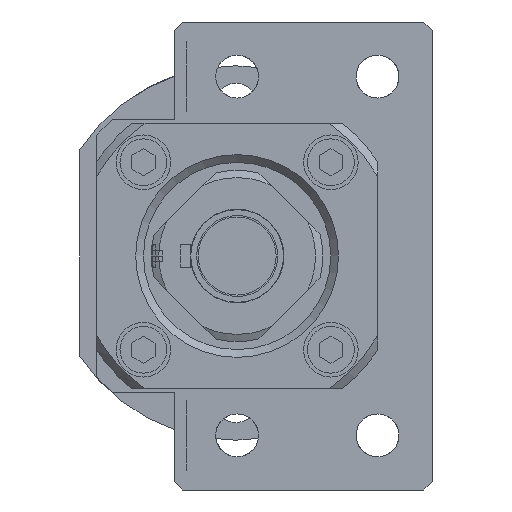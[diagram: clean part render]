
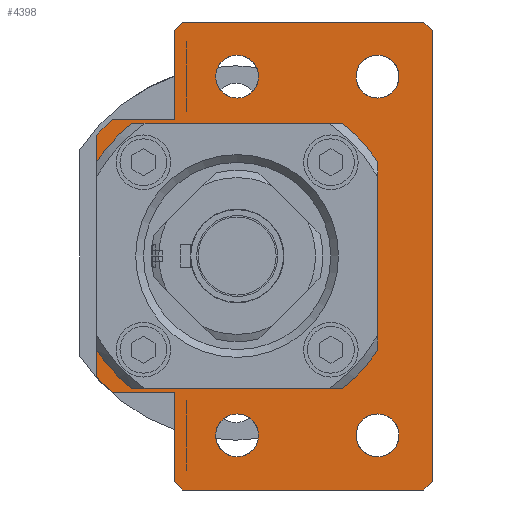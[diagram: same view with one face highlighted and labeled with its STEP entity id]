
A CAD part, left-side view. The second image highlights one B-rep face of the part: STEP entity #4398.
In plain terms, the highlighted planar face has unit normal (-1, 0, 0) as drawn and (0, 0, 1) by its records, which use the part's own axes.
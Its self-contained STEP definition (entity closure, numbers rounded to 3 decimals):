
#251=FACE_BOUND('',#1489,.T.);
#252=FACE_BOUND('',#1490,.T.);
#253=FACE_BOUND('',#1491,.T.);
#254=FACE_BOUND('',#1492,.T.);
#255=FACE_BOUND('',#1493,.T.);
#411=LINE('',#7847,#738);
#415=LINE('',#7854,#742);
#418=LINE('',#7867,#745);
#423=LINE('',#7880,#750);
#427=LINE('',#7890,#754);
#431=LINE('',#7898,#758);
#433=LINE('',#7903,#760);
#488=LINE('',#8234,#815);
#491=LINE('',#8239,#818);
#493=LINE('',#8243,#820);
#495=LINE('',#8246,#822);
#496=LINE('',#8248,#823);
#497=LINE('',#8250,#824);
#498=LINE('',#8251,#825);
#499=LINE('',#8256,#826);
#500=LINE('',#8260,#827);
#501=LINE('',#8264,#828);
#502=LINE('',#8267,#829);
#738=VECTOR('',#5500,10.);
#742=VECTOR('',#5506,10.);
#745=VECTOR('',#5519,10.);
#750=VECTOR('',#5530,10.);
#754=VECTOR('',#5540,1000.);
#758=VECTOR('',#5546,1000.);
#760=VECTOR('',#5550,1000.);
#815=VECTOR('',#5763,1000.);
#818=VECTOR('',#5768,1000.);
#820=VECTOR('',#5772,1000.);
#822=VECTOR('',#5776,1000.);
#823=VECTOR('',#5779,1000.);
#824=VECTOR('',#5782,1000.);
#825=VECTOR('',#5783,1000.);
#826=VECTOR('',#5786,1000.);
#827=VECTOR('',#5789,1000.);
#828=VECTOR('',#5792,1000.);
#829=VECTOR('',#5795,1000.);
#1185=FACE_OUTER_BOUND('',#1488,.T.);
#1488=EDGE_LOOP('',(#3600,#3601,#3602,#3603,#3604,#3605,#3606,#3607,#3608,
#3609,#3610,#3611,#3612,#3613));
#1489=EDGE_LOOP('',(#3614));
#1490=EDGE_LOOP('',(#3615));
#1491=EDGE_LOOP('',(#3616));
#1492=EDGE_LOOP('',(#3617));
#1493=EDGE_LOOP('',(#3618,#3619,#3620,#3621,#3622,#3623,#3624,#3625));
#1698=CIRCLE('',#4756,2.75);
#1700=CIRCLE('',#4761,2.75);
#1702=CIRCLE('',#4766,2.75);
#1704=CIRCLE('',#4771,2.75);
#1764=CIRCLE('',#4879,20.7);
#1765=CIRCLE('',#4880,20.7);
#1766=CIRCLE('',#4881,20.7);
#1767=CIRCLE('',#4882,20.7);
#1943=VERTEX_POINT('',#7103);
#1957=VERTEX_POINT('',#7309);
#1971=VERTEX_POINT('',#7515);
#1985=VERTEX_POINT('',#7721);
#2000=VERTEX_POINT('',#7844);
#2001=VERTEX_POINT('',#7846);
#2003=VERTEX_POINT('',#7852);
#2007=VERTEX_POINT('',#7864);
#2008=VERTEX_POINT('',#7866);
#2013=VERTEX_POINT('',#7879);
#2016=VERTEX_POINT('',#7889);
#2019=VERTEX_POINT('',#7897);
#2020=VERTEX_POINT('',#7901);
#2021=VERTEX_POINT('',#7902);
#2108=VERTEX_POINT('',#8232);
#2109=VERTEX_POINT('',#8233);
#2110=VERTEX_POINT('',#8238);
#2111=VERTEX_POINT('',#8242);
#2112=VERTEX_POINT('',#8252);
#2113=VERTEX_POINT('',#8253);
#2114=VERTEX_POINT('',#8255);
#2115=VERTEX_POINT('',#8257);
#2116=VERTEX_POINT('',#8259);
#2117=VERTEX_POINT('',#8261);
#2118=VERTEX_POINT('',#8263);
#2119=VERTEX_POINT('',#8265);
#2419=EDGE_CURVE('',#1943,#1943,#1698,.T.);
#2436=EDGE_CURVE('',#1957,#1957,#1700,.T.);
#2453=EDGE_CURVE('',#1971,#1971,#1702,.T.);
#2470=EDGE_CURVE('',#1985,#1985,#1704,.T.);
#2490=EDGE_CURVE('',#2001,#2000,#411,.F.);
#2494=EDGE_CURVE('',#2000,#2003,#415,.F.);
#2500=EDGE_CURVE('',#2008,#2007,#418,.F.);
#2507=EDGE_CURVE('',#2013,#2008,#423,.F.);
#2512=EDGE_CURVE('',#2007,#2016,#427,.T.);
#2516=EDGE_CURVE('',#2019,#2001,#431,.T.);
#2518=EDGE_CURVE('',#2020,#2021,#433,.T.);
#2646=EDGE_CURVE('',#2108,#2109,#488,.T.);
#2649=EDGE_CURVE('',#2109,#2110,#491,.T.);
#2651=EDGE_CURVE('',#2110,#2111,#493,.T.);
#2653=EDGE_CURVE('',#2111,#2013,#495,.T.);
#2654=EDGE_CURVE('',#2003,#2108,#496,.T.);
#2655=EDGE_CURVE('',#2020,#2019,#497,.T.);
#2656=EDGE_CURVE('',#2016,#2021,#498,.T.);
#2657=EDGE_CURVE('',#2112,#2113,#1764,.T.);
#2658=EDGE_CURVE('',#2114,#2113,#499,.T.);
#2659=EDGE_CURVE('',#2114,#2115,#1765,.T.);
#2660=EDGE_CURVE('',#2116,#2115,#500,.T.);
#2661=EDGE_CURVE('',#2116,#2117,#1766,.T.);
#2662=EDGE_CURVE('',#2118,#2117,#501,.T.);
#2663=EDGE_CURVE('',#2118,#2119,#1767,.T.);
#2664=EDGE_CURVE('',#2112,#2119,#502,.T.);
#3600=ORIENTED_EDGE('',*,*,#2655,.T.);
#3601=ORIENTED_EDGE('',*,*,#2516,.T.);
#3602=ORIENTED_EDGE('',*,*,#2490,.T.);
#3603=ORIENTED_EDGE('',*,*,#2494,.T.);
#3604=ORIENTED_EDGE('',*,*,#2654,.T.);
#3605=ORIENTED_EDGE('',*,*,#2646,.T.);
#3606=ORIENTED_EDGE('',*,*,#2649,.T.);
#3607=ORIENTED_EDGE('',*,*,#2651,.T.);
#3608=ORIENTED_EDGE('',*,*,#2653,.T.);
#3609=ORIENTED_EDGE('',*,*,#2507,.T.);
#3610=ORIENTED_EDGE('',*,*,#2500,.T.);
#3611=ORIENTED_EDGE('',*,*,#2512,.T.);
#3612=ORIENTED_EDGE('',*,*,#2656,.T.);
#3613=ORIENTED_EDGE('',*,*,#2518,.F.);
#3614=ORIENTED_EDGE('',*,*,#2419,.T.);
#3615=ORIENTED_EDGE('',*,*,#2436,.T.);
#3616=ORIENTED_EDGE('',*,*,#2453,.T.);
#3617=ORIENTED_EDGE('',*,*,#2470,.T.);
#3618=ORIENTED_EDGE('',*,*,#2657,.T.);
#3619=ORIENTED_EDGE('',*,*,#2658,.F.);
#3620=ORIENTED_EDGE('',*,*,#2659,.T.);
#3621=ORIENTED_EDGE('',*,*,#2660,.F.);
#3622=ORIENTED_EDGE('',*,*,#2661,.T.);
#3623=ORIENTED_EDGE('',*,*,#2662,.F.);
#3624=ORIENTED_EDGE('',*,*,#2663,.T.);
#3625=ORIENTED_EDGE('',*,*,#2664,.F.);
#4204=PLANE('',#4878);
#4398=ADVANCED_FACE('',(#1185,#251,#252,#253,#254,#255),#4204,.T.);
#4756=AXIS2_PLACEMENT_3D('',#7104,#5434,#5435);
#4761=AXIS2_PLACEMENT_3D('',#7310,#5447,#5448);
#4766=AXIS2_PLACEMENT_3D('',#7516,#5460,#5461);
#4771=AXIS2_PLACEMENT_3D('',#7722,#5473,#5474);
#4878=AXIS2_PLACEMENT_3D('',#8249,#5780,#5781);
#4879=AXIS2_PLACEMENT_3D('',#8254,#5784,#5785);
#4880=AXIS2_PLACEMENT_3D('',#8258,#5787,#5788);
#4881=AXIS2_PLACEMENT_3D('',#8262,#5790,#5791);
#4882=AXIS2_PLACEMENT_3D('',#8266,#5793,#5794);
#5434=DIRECTION('center_axis',(0.,0.,-1.));
#5435=DIRECTION('ref_axis',(1.,0.,0.));
#5447=DIRECTION('center_axis',(0.,0.,-1.));
#5448=DIRECTION('ref_axis',(1.,0.,0.));
#5460=DIRECTION('center_axis',(0.,0.,-1.));
#5461=DIRECTION('ref_axis',(1.,0.,0.));
#5473=DIRECTION('center_axis',(0.,0.,-1.));
#5474=DIRECTION('ref_axis',(1.,0.,0.));
#5500=DIRECTION('',(1.,0.,0.));
#5506=DIRECTION('',(0.707,0.707,0.));
#5519=DIRECTION('',(1.,0.,0.));
#5530=DIRECTION('',(0.707,-0.707,0.));
#5540=DIRECTION('',(0.,1.,0.));
#5546=DIRECTION('',(0.,-1.,0.));
#5550=DIRECTION('',(1.,0.,0.));
#5763=DIRECTION('',(0.707,-0.707,0.));
#5768=DIRECTION('',(1.,0.,0.));
#5772=DIRECTION('',(0.707,0.707,0.));
#5776=DIRECTION('',(0.,1.,0.));
#5779=DIRECTION('',(0.,-1.,0.));
#5780=DIRECTION('center_axis',(0.,0.,1.));
#5781=DIRECTION('ref_axis',(1.,0.,0.));
#5782=DIRECTION('',(-0.707,-0.707,0.));
#5783=DIRECTION('',(-0.707,0.707,0.));
#5784=DIRECTION('center_axis',(0.,0.,-1.));
#5785=DIRECTION('ref_axis',(-1.,0.,0.));
#5786=DIRECTION('',(-1.,0.,0.));
#5787=DIRECTION('center_axis',(0.,0.,-1.));
#5788=DIRECTION('ref_axis',(-1.,0.,0.));
#5789=DIRECTION('',(0.,1.,0.));
#5790=DIRECTION('center_axis',(0.,0.,-1.));
#5791=DIRECTION('ref_axis',(-1.,0.,0.));
#5792=DIRECTION('',(1.,0.,0.));
#5793=DIRECTION('center_axis',(0.,0.,-1.));
#5794=DIRECTION('ref_axis',(-1.,0.,0.));
#5795=DIRECTION('',(0.,-1.,0.));
#7103=CARTESIAN_POINT('',(-25.75,-18.,0.));
#7104=CARTESIAN_POINT('Origin',(-23.,-18.,0.));
#7309=CARTESIAN_POINT('',(20.25,-18.,0.));
#7310=CARTESIAN_POINT('Origin',(23.,-18.,0.));
#7515=CARTESIAN_POINT('',(-25.75,0.,0.));
#7516=CARTESIAN_POINT('Origin',(-23.,0.,0.));
#7721=CARTESIAN_POINT('',(20.25,0.,0.));
#7722=CARTESIAN_POINT('Origin',(23.,0.,0.));
#7844=CARTESIAN_POINT('',(-28.95,8.,0.));
#7846=CARTESIAN_POINT('',(-17.5,8.,0.));
#7847=CARTESIAN_POINT('',(-8.75,8.,0.));
#7852=CARTESIAN_POINT('',(-30.,6.95,0.));
#7854=CARTESIAN_POINT('',(-23.837,13.112,0.));
#7864=CARTESIAN_POINT('',(17.5,8.,0.));
#7866=CARTESIAN_POINT('',(28.95,8.,0.));
#7867=CARTESIAN_POINT('',(14.475,8.,0.));
#7879=CARTESIAN_POINT('',(30.,6.95,0.));
#7880=CARTESIAN_POINT('',(24.362,12.587,0.));
#7889=CARTESIAN_POINT('',(17.5,16.,0.));
#7890=CARTESIAN_POINT('',(17.5,7.5,0.));
#7897=CARTESIAN_POINT('',(-17.5,16.,0.));
#7898=CARTESIAN_POINT('',(-17.5,16.,0.));
#7901=CARTESIAN_POINT('',(-15.5,18.,0.));
#7902=CARTESIAN_POINT('',(15.5,18.,0.));
#7903=CARTESIAN_POINT('',(15.5,18.,0.));
#8232=CARTESIAN_POINT('',(-30.,-23.95,0.));
#8233=CARTESIAN_POINT('',(-28.95,-25.,0.));
#8234=CARTESIAN_POINT('',(-30.,-23.95,0.));
#8238=CARTESIAN_POINT('',(28.95,-25.,0.));
#8239=CARTESIAN_POINT('',(-28.95,-25.,0.));
#8242=CARTESIAN_POINT('',(30.,-23.95,0.));
#8243=CARTESIAN_POINT('',(28.95,-25.,0.));
#8246=CARTESIAN_POINT('',(30.,-23.95,0.));
#8248=CARTESIAN_POINT('',(-30.,6.45,0.));
#8249=CARTESIAN_POINT('Origin',(0.,0.,0.));
#8250=CARTESIAN_POINT('',(-15.5,18.,0.));
#8251=CARTESIAN_POINT('',(17.5,16.,0.));
#8252=CARTESIAN_POINT('',(-16.98,11.839,0.));
#8253=CARTESIAN_POINT('',(-10.257,17.98,0.));
#8254=CARTESIAN_POINT('Origin',(0.,0.,0.));
#8255=CARTESIAN_POINT('',(10.257,17.98,0.));
#8256=CARTESIAN_POINT('',(16.98,17.98,0.));
#8257=CARTESIAN_POINT('',(16.98,11.839,0.));
#8258=CARTESIAN_POINT('Origin',(0.,0.,0.));
#8259=CARTESIAN_POINT('',(16.98,-11.839,0.));
#8260=CARTESIAN_POINT('',(16.98,-17.98,0.));
#8261=CARTESIAN_POINT('',(10.257,-17.98,0.));
#8262=CARTESIAN_POINT('Origin',(0.,0.,0.));
#8263=CARTESIAN_POINT('',(-10.257,-17.98,0.));
#8264=CARTESIAN_POINT('',(-16.98,-17.98,0.));
#8265=CARTESIAN_POINT('',(-16.98,-11.839,0.));
#8266=CARTESIAN_POINT('Origin',(0.,0.,0.));
#8267=CARTESIAN_POINT('',(-16.98,17.98,0.));
